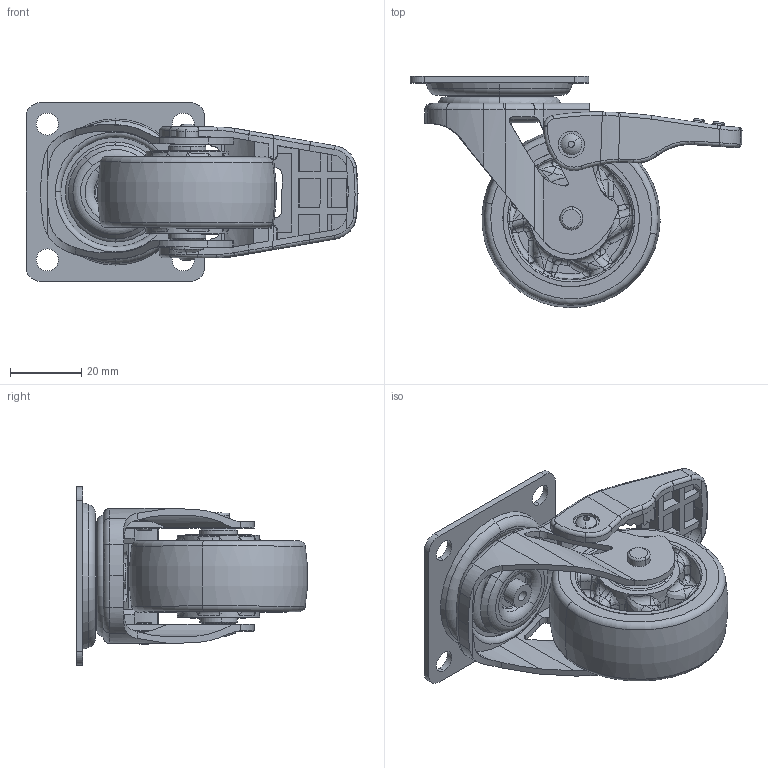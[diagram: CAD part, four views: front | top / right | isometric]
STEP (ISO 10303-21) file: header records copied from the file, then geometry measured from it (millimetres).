
FILE_DESCRIPTION (( 'STEP AP203' ), '1' );
FILE_NAME ('STRONG Koleèko TOP, prùmìr 50 mm s brzdou_406080 a 285207_3D.STEP', '2022-05-31T07:23:31', ( '' ), ( '' ), 'SwSTEP 2.0', 'SolidWorks 2019', '' );
FILE_SCHEMA (( 'CONFIG_CONTROL_DESIGN' ));
Length unit declared in the file: millimetre
Products named in the file (18): R4.STEP; CS502A-1.STEP; PLATE.STEP; KEEP-0.STEP; CS-ALL.STEP; 476.STEP; CS502A-2.STEP; RO-50.STEP; KEEP.STEP; CS502A.STEP; CS351A-PLATE.STEP; CS502WHEEL.STEP; R1.STEP; 396.STEP; CS502-PU.STEP; CS502-PC.STEP; R3.STEP; STRONG Koleèko TOP, prùmìr 50 mm s brzdou_406080 a 285207_3D
Assembly tree (46 placements, depth 5):
  STRONG Koleèko TOP, prùmìr 50 mm s brzdou_406080 a 285207_3D
    CS502A.STEP
      CS-ALL.STEP
        CS351A-PLATE.STEP
          PLATE.STEP
          476.STEP  x15
        KEEP.STEP
          KEEP-0.STEP
          396.STEP  x14
        R1.STEP
      CS502WHEEL.STEP
        CS502-PC.STEP
        CS502-PU.STEP
      CS502A-1.STEP
      CS502A-2.STEP
      RO-50.STEP  x2
      R3.STEP
      R4.STEP  x2
Bounding box: 92.88 x 64.6 x 50 mm (x, y, z)
Volume: 57158.1 mm3; surface area: 44686 mm2
Topology: 41 solids, 41 shells, 1203 faces, 3036 edges, 1796 vertices
Faces by surface type: bspline 285, plane 250, cylinder 235, torus 229, sphere 122, cone 82
Entity records: 49336 total; most frequent: CARTESIAN_POINT 23632, ORIENTED_EDGE 5138, DIRECTION 4595, EDGE_CURVE 2569, AXIS2_PLACEMENT_3D 2007, VERTEX_POINT 1575, CIRCLE 1188, EDGE_LOOP 1126
